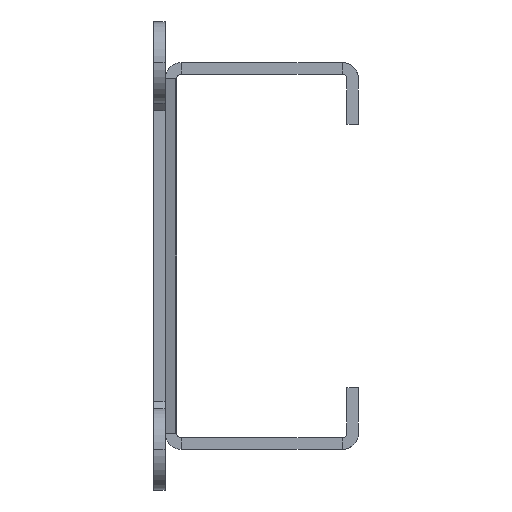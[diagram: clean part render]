
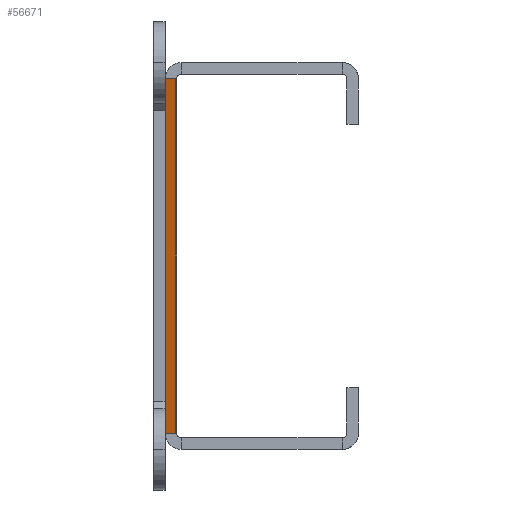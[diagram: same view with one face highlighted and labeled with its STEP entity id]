
A CAD part, left-side view. The second image highlights one B-rep face of the part: STEP entity #56671.
In plain terms, the highlighted planar face has unit normal (-0.342, -0.94, 0).
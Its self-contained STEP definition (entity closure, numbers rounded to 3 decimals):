
#44136=CARTESIAN_POINT(' ',(-139.612,-1.373,-22.9));
#44137=VERTEX_POINT(' ',#44136);
#44676=CARTESIAN_POINT(' ',(-139.612,-1.373,22.9));
#44677=VERTEX_POINT(' ',#44676);
#44831=CARTESIAN_POINT(' ',(-139.612,-1.373,22.9));
#44836=DIRECTION(' ',(0.,0.,-1.));
#44841=VECTOR(' ',#44836,1.);
#44846=LINE('',#44831,#44841);
#44851=EDGE_CURVE(' ',#44677,#44137,#44846,.T.);
#55976=CARTESIAN_POINT(' ',(-143.286,-0.036,-22.9));
#55977=VERTEX_POINT(' ',#55976);
#56026=CARTESIAN_POINT(' ',(-139.612,-1.373,-22.9));
#56031=DIRECTION(' ',(-0.94,0.342,0.));
#56036=VECTOR(' ',#56031,1.);
#56041=LINE('',#56026,#56036);
#56046=EDGE_CURVE(' ',#44137,#55977,#56041,.T.);
#56471=CARTESIAN_POINT(' ',(-143.286,-0.036,22.9));
#56476=DIRECTION(' ',(0.94,-0.342,0.));
#56481=VECTOR(' ',#56476,1.);
#56486=LINE('',#56471,#56481);
#56491=CARTESIAN_POINT(' ',(-143.286,-0.036,22.9));
#56492=VERTEX_POINT(' ',#56491);
#56496=EDGE_CURVE(' ',#56492,#44677,#56486,.T.);
#56591=DIRECTION(' ',(-0.342,-0.94,0.));
#56596=CARTESIAN_POINT(' ',(-139.612,-1.373,22.9));
#56601=DIRECTION(' ',(-0.94,0.342,0.));
#56606=AXIS2_PLACEMENT_3D(' ',#56596,#56591,#56601);
#56611=PLANE('NONE',#56606);
#56616=ORIENTED_EDGE(' ',*,*,#56046,.F.);
#56621=ORIENTED_EDGE(' ',*,*,#44851,.F.);
#56626=ORIENTED_EDGE(' ',*,*,#56496,.F.);
#56631=CARTESIAN_POINT(' ',(-143.286,-0.036,22.9));
#56636=DIRECTION(' ',(0.,0.,-1.));
#56641=VECTOR(' ',#56636,1.);
#56646=LINE('',#56631,#56641);
#56651=EDGE_CURVE(' ',#56492,#55977,#56646,.T.);
#56656=ORIENTED_EDGE(' ',*,*,#56651,.T.);
#56661=EDGE_LOOP(' ',(#56616,#56621,#56626,#56656));
#56666=FACE_OUTER_BOUND(' ',#56661,.T.);
#56671=ADVANCED_FACE('NONE',(#56666),#56611,.T.);
